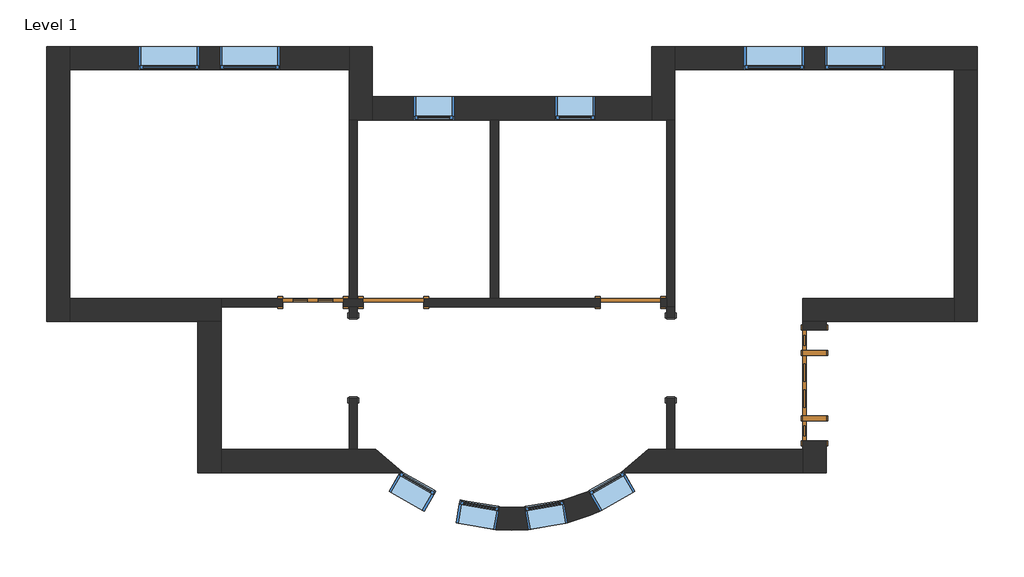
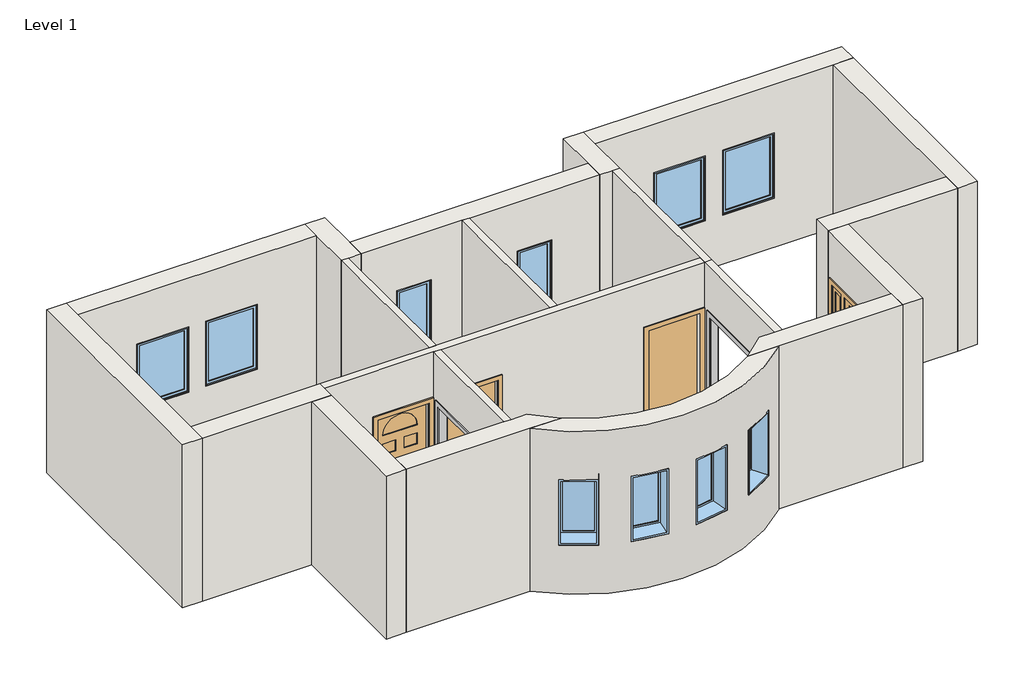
# One storey: 20 walls, 10 windows, 4 doors, 2 proxies.
"""IFC4 building model written with IfcOpenShell, lengths in millimetres."""

from ifc_helpers import new_model, si_unit, frame, origin, origin_with_axes, place, context, project, spatial, polyline, circle_curve, outline, extrude, faceted_brep, transform, mapped, element, save
from ifc_brep_helpers import plane_surface, cylinder_surface, revolved_surface, advanced_brep
from components import proxy_f44482cc, door_2e3b4da2, door_a1797ceb, door_a3eb833a, door_dba5aa2e, window_60baf983, window_ed80354a, window_15c49d37

model = new_model("IFC4")

# Units and contexts
model_context = context("Model", 3, world=origin())
ifc_project = project(units=[si_unit("LENGTHUNIT", "METRE", prefix="MILLI")], contexts=[model_context])

# Site, building, storey
site = spatial("IfcSite", under=ifc_project)
building = spatial("IfcBuilding", under=site)
storey = spatial("IfcBuildingStorey", under=building, Name="Level 1", Elevation=0.0)

# Proxies
placement = place(None, origin())
proxy_shape = proxy_f44482cc(model_context)
element("IfcBuildingElementProxy", 1, Name="Opening-Cased : 48\" x 84\"", ObjectType="Opening-Cased : 48\" x 84\"", at=placement, inside=storey, context=model_context, shape_type="MappedRepresentation", body=[
    mapped(proxy_shape, transform((-732.7404149, 8023.3246014, 0.0), x_axis=(0.0, -1.0, 0.0), y_axis=(1.0, 0.0, 0.0), z_axis=(0.0, 0.0, 1.0))),
])
element("IfcBuildingElementProxy", 2, Name="Opening-Cased : 48\" x 84\"", ObjectType="Opening-Cased : 48\" x 84\"", at=placement, inside=storey, context=model_context, shape_type="MappedRepresentation", body=[
    mapped(proxy_shape, transform((4064.6845851, 8039.7019148, 0.0), x_axis=(0.0, 1.0, 0.0), y_axis=(-1.0, 0.0, 0.0), z_axis=(0.0, 0.0, 1.0))),
])

# Doors
door_shape = door_2e3b4da2(model_context)
element("IfcDoor", 3, ObjectType="Single-Decorative 2 : 36\" x 84\"", at=placement, inside=storey, context=model_context, shape_type="MappedRepresentation", body=[
    mapped(door_shape, transform((-1342.3404149, 8869.7132581, 0.0), x_axis=(1.0, 0.0, 0.0), y_axis=(0.0, 1.0, 0.0), z_axis=(0.0, 0.0, 1.0))),
])
door_2_shape = door_a1797ceb(model_context)
element("IfcDoor", 4, ObjectType="Single-Flush : 36\" x 84\"", at=placement, inside=storey, context=model_context, shape_type="MappedRepresentation", body=[
    mapped(door_2_shape, transform((3455.0845851, 8869.7132581, 0.0), x_axis=(1.0, 0.0, 0.0), y_axis=(0.0, 1.0, 0.0), z_axis=(0.0, 0.0, 1.0))),
])
door_3_shape = door_a3eb833a(model_context)
element("IfcDoor", 5, ObjectType="Single-Flush : 36\" x 84\"", at=placement, inside=storey, context=model_context, shape_type="MappedRepresentation", body=[
    mapped(door_3_shape, transform((-123.1404149, 8869.7132581, 0.0), x_axis=(-1.0, 0.0, 0.0), y_axis=(0.0, -1.0, 0.0), z_axis=(0.0, 0.0, 1.0))),
])
door_4_shape = door_dba5aa2e(model_context)
element("IfcDoor", 6, ObjectType="Single-Raised Panel with Sidelights : 36\" x 84\"", at=placement, inside=storey, context=model_context, shape_type="MappedRepresentation", body=[
    mapped(door_4_shape, transform((6237.9720851, 7614.0007581, 0.0), x_axis=(0.0, -1.0, 0.0), y_axis=(1.0, 0.0, 0.0), z_axis=(0.0, 0.0, 1.0))),
])

# Walls
element("IfcWall", 7, ObjectType="Exterior - Brick on Mtl. Stud", at=placement, inside=storey, context=model_context, shape_type="Brep", body=[
    faceted_brep([(8347.7595851, 12390.7882581, 0.0), (8347.7595851, 8933.2132581, 0.0), (8347.7595851, 8580.7882581, 0.0), (8347.7595851, 8580.7882581, 3048.0), (8347.7595851, 8933.2132581, 3048.0), (8347.7595851, 12390.7882581, 3048.0), (8700.1845851, 12390.7882581, 0.0), (8700.1845851, 12390.7882581, 3048.0), (8700.1845851, 8580.7882581, 3048.0), (8700.1845851, 8580.7882581, 0.0)], [[[0, 1, 2, 3, 4, 5]], [[6, 7, 8, 9]], [[2, 1, 0, 6, 9]], [[5, 4, 3, 8, 7]], [[3, 2, 9, 8]], [[0, 5, 7, 6]]]),
])
element("IfcWall", 8, ObjectType="Exterior - Brick on Mtl. Stud", at=placement, inside=storey, context=model_context, shape_type="Brep", body=[
    faceted_brep([(8347.7595851, 8933.2132581, 0.0), (6061.7595851, 8933.2132581, 0.0), (6061.7595851, 8933.2132581, 3048.0), (8347.7595851, 8933.2132581, 3048.0), (8347.7595851, 8580.7882581, 0.0), (8347.7595851, 8580.7882581, 3048.0), (6414.1845851, 8580.7882581, 3048.0), (6061.7595851, 8580.7882581, 3048.0), (6061.7595851, 8580.7882581, 0.0), (6414.1845851, 8580.7882581, 0.0)], [[[0, 1, 2, 3]], [[4, 5, 6, 7, 8, 9]], [[1, 0, 4, 9, 8]], [[3, 2, 7, 6, 5]], [[2, 1, 8, 7]], [[0, 3, 5, 4]]]),
])
element("IfcWall", 9, ObjectType="Exterior - Brick on Mtl. Stud", at=placement, inside=storey, context=model_context, shape_type="Brep", body=[
    faceted_brep([(6061.7595851, 6775.8007581, 2133.6), (6061.7595851, 6775.8007581, 0.0), (6061.7595851, 6647.2132581, 0.0), (6061.7595851, 6294.7882581, 0.0), (6061.7595851, 6294.7882581, 3048.0), (6061.7595851, 6647.2132581, 3048.0), (6061.7595851, 8580.7882581, 3048.0), (6061.7595851, 8580.7882581, 0.0), (6061.7595851, 8452.2007581, 0.0), (6061.7595851, 8452.2007581, 2133.6), (6414.1845851, 6294.7882581, 0.0), (6414.1845851, 6775.8007581, 0.0), (6414.1845851, 6775.8007581, 2133.6), (6414.1845851, 8452.2007581, 2133.6), (6414.1845851, 8452.2007581, 0.0), (6414.1845851, 8580.7882581, 0.0), (6414.1845851, 8580.7882581, 3048.0), (6414.1845851, 6294.7882581, 3048.0)], [[[0, 1, 2, 3, 4, 5, 6, 7, 8, 9]], [[10, 11, 12, 13, 14, 15, 16, 17]], [[3, 2, 1, 11, 10]], [[8, 7, 15, 14]], [[6, 5, 4, 17, 16]], [[4, 3, 10, 17]], [[7, 6, 16, 15]], [[12, 11, 1, 0]], [[13, 12, 0, 9]], [[14, 13, 9, 8]]]),
])
element("IfcWall", 10, ObjectType="Exterior - Brick on Mtl. Stud", at=placement, inside=storey, context=model_context, shape_type="AdvancedBrep", body=[
    advanced_brep(
    [(6061.7595851, 6647.2132581, 0.0), (4128.1845851, 6647.2132581, 0.0), (4001.1845851, 6647.2132581, 0.0), (3726.3564328, 6647.2132581, 0.0), (3726.3564328, 6647.2132581, 3048.0), (4001.1845851, 6647.2132581, 3048.0), (4128.1845851, 6647.2132581, 3048.0), (6061.7595851, 6647.2132581, 3048.0), (3312.4627349, 6294.7882581, 0.0), (3870.3573191, 6294.7882581, 0.0), (6061.7595851, 6294.7882581, 0.0), (6061.7595851, 6294.7882581, 3048.0), (3870.3573191, 6294.7882581, 3048.0), (3312.4627349, 6294.7882581, 3048.0), (3312.4627349, 6294.7882581, 2133.6), (3361.7509829, 6294.7882581, 2133.6), (3361.7509829, 6294.7882581, 914.4), (3312.4627349, 6294.7882581, 914.4), (3320.3742367, 6300.3443098, 914.4), (3320.3742367, 6300.3443098, 2133.6), (3349.1702511, 6316.8014694, 914.4), (3349.1702511, 6316.8014694, 2133.6)],
    [
        (0, 1),
        (1, 2),
        (2, 3),
        (3, 4),
        (4, 5),
        (5, 6),
        (6, 7),
        (7, 0),
        (8, 9),
        (9, 10),
        (10, 11),
        (11, 12),
        (12, 13),
        (13, 14),
        (14, 15),
        (15, 16),
        (16, 17),
        (17, 8),
        (0, 10),
        (8, 3, circle_curve(frame((1665.9720851, 8647.7081431, 0.0), z_axis=(0.0, 0.0, 1.0), x_axis=(1.0, 0.0, 0.0)), 2871.7875)),
        (4, 13, circle_curve(frame((1665.9720851, 8647.7081431, 3048.0), z_axis=(0.0, 0.0, -1.0), x_axis=(1.0, 0.0, 0.0)), 2871.7875)),
        (11, 7),
        (17, 18, circle_curve(frame((1665.9720851, 8647.7081431, 914.4), z_axis=(0.0, 0.0, 1.0), x_axis=(1.0, 0.0, 0.0)), 2871.7875)),
        (18, 19),
        (19, 14, circle_curve(frame((1665.9720851, 8647.7081431, 2133.6), z_axis=(0.0, 0.0, -1.0), x_axis=(1.0, 0.0, 0.0)), 2871.7875)),
        (20, 21),
        (21, 19),
        (18, 20),
        (16, 20),
        (15, 21),
    ],
    [
        plane_surface(frame((6237.9720851, 6647.2132581, 0.0), z_axis=(0.0, 1.0, 0.0), x_axis=(-1.0, 0.0, 0.0))),
        plane_surface(frame((6237.9720851, 6294.7882581, 0.0), z_axis=(0.0, -1.0, 0.0), x_axis=(1.0, 0.0, 0.0))),
        plane_surface(frame((6237.9720851, 6647.2132581, 0.0), z_axis=(0.0, 0.0, -1.0), x_axis=(0.0, -1.0, 0.0))),
        plane_surface(frame((3799.5720851, 6647.2132581, 3048.0), z_axis=(0.0, 0.0, 1.0), x_axis=(0.0, -1.0, 0.0))),
        revolved_surface(polyline([(4537.7595851, 8647.7081431, 0.0), (4537.7595851, 8647.7081431, 3048.0)]), (1665.9720851, 8647.7081431, 0.0), (0.0, 0.0, -1.0)),
        plane_surface(frame((6061.7595851, 8757.0007581, 0.0), z_axis=(1.0, 0.0, 0.0), x_axis=(0.0, -1.0, 0.0))),
        plane_surface(frame((2819.9073972, 6014.3233852, 2133.6), z_axis=(0.49619108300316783, -0.8682133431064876, 0.0), x_axis=(0.0, 0.0, 1.0))),
        plane_surface(frame((2993.993531, 5709.7151216, 914.4), z_axis=(0.0, 0.0, 1.0000000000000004), x_axis=(-0.4961910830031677, 0.8682133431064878, 0.0))),
        plane_surface(frame((3523.2563849, 6012.1932058, 914.4), z_axis=(-0.8682133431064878, -0.4961910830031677, 0.0), x_axis=(-0.4961910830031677, 0.8682133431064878, 0.0))),
        plane_surface(frame((3523.2563849, 6012.1932058, 2133.6), z_axis=(0.0, 0.0, -1.0000000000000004), x_axis=(-0.4961910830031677, 0.8682133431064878, 0.0))),
    ],
    [
        (0, [[1, 2, 3, 4, 5, 6, 7, 8]]),
        (1, [[9, 10, 11, 12, 13, 14, 15, 16, 17, 18]]),
        (2, [[-3, -2, -1, 19, -10, -9, 20]]),
        (3, [[-7, -6, -5, 21, -13, -12, 22]]),
        (4, [[-4, -20, -18, 23, 24, 25, -14, -21]]),
        (5, [[-8, -22, -11, -19]]),
        (6, [[26, 27, -24, 28]]),
        (7, [[-28, -23, -17, 29]]),
        (8, [[-26, -29, -16, 30]]),
        (9, [[-27, -30, -15, -25]]),
    ],
),
])
element("IfcWall", 11, ObjectType="Exterior - Brick on Mtl. Stud", at=placement, inside=storey, context=model_context, shape_type="Brep", body=[
    faceted_brep([(-5368.2404149, 12743.2132581, 0.0), (-5368.2404149, 8580.7882581, 0.0), (-5368.2404149, 8580.7882581, 3048.0), (-5368.2404149, 12743.2132581, 3048.0), (-5015.8154149, 12743.2132581, 0.0), (-5015.8154149, 12743.2132581, 3048.0), (-5015.8154149, 12390.7882581, 3048.0), (-5015.8154149, 8933.2132581, 3048.0), (-5015.8154149, 8580.7882581, 3048.0), (-5015.8154149, 8580.7882581, 0.0), (-5015.8154149, 8933.2132581, 0.0), (-5015.8154149, 12390.7882581, 0.0)], [[[0, 1, 2, 3]], [[4, 5, 6, 7, 8, 9, 10, 11]], [[1, 0, 4, 11, 10, 9]], [[3, 2, 8, 7, 6, 5]], [[2, 1, 9, 8]], [[0, 3, 5, 4]]]),
])
element("IfcWall", 12, ObjectType="Exterior - Brick on Mtl. Stud", at=placement, inside=storey, context=model_context, shape_type="Brep", body=[
    faceted_brep([(-5015.8154149, 8580.7882581, 0.0), (-3082.2404149, 8580.7882581, 0.0), (-2729.8154149, 8580.7882581, 0.0), (-2729.8154149, 8580.7882581, 3048.0), (-3082.2404149, 8580.7882581, 3048.0), (-5015.8154149, 8580.7882581, 3048.0), (-5015.8154149, 8933.2132581, 0.0), (-5015.8154149, 8933.2132581, 3048.0), (-2729.8154149, 8933.2132581, 3048.0), (-2729.8154149, 8933.2132581, 0.0), (-2729.8154149, 8806.2132581, 0.0), (-2729.8154149, 8806.2132581, 3048.0)], [[[0, 1, 2, 3, 4, 5]], [[6, 7, 8, 9]], [[2, 1, 0, 6, 9, 10]], [[5, 4, 3, 11, 8, 7]], [[3, 2, 10, 9, 8, 11]], [[0, 5, 7, 6]]]),
])
element("IfcWall", 13, ObjectType="Exterior - Brick on Mtl. Stud", at=placement, inside=storey, context=model_context, shape_type="Brep", body=[
    faceted_brep([(-3082.2404149, 8580.7882581, 0.0), (-3082.2404149, 6294.7882581, 0.0), (-3082.2404149, 6294.7882581, 3048.0), (-3082.2404149, 8580.7882581, 3048.0), (-2729.8154149, 8580.7882581, 0.0), (-2729.8154149, 8580.7882581, 3048.0), (-2729.8154149, 6647.2132581, 3048.0), (-2729.8154149, 6294.7882581, 3048.0), (-2729.8154149, 6294.7882581, 0.0), (-2729.8154149, 6647.2132581, 0.0)], [[[0, 1, 2, 3]], [[4, 5, 6, 7, 8, 9]], [[1, 0, 4, 9, 8]], [[3, 2, 7, 6, 5]], [[2, 1, 8, 7]], [[0, 3, 5, 4]]]),
])
element("IfcWall", 14, ObjectType="Exterior - Brick on Mtl. Stud", at=placement, inside=storey, context=model_context, shape_type="AdvancedBrep", body=[
    advanced_brep(
    [(-2729.8154149, 6294.7882581, 0.0), (-538.4131488, 6294.7882581, 0.0), (19.4814354, 6294.7882581, 0.0), (19.4814354, 6294.7882581, 914.4), (-29.8068126, 6294.7882581, 914.4), (-29.8068126, 6294.7882581, 2133.6), (19.4814354, 6294.7882581, 2133.6), (19.4814354, 6294.7882581, 3048.0), (-538.4131488, 6294.7882581, 3048.0), (-2729.8154149, 6294.7882581, 3048.0), (-394.4122625, 6647.2132581, 0.0), (-669.2404149, 6647.2132581, 0.0), (-796.2404149, 6647.2132581, 0.0), (-2729.8154149, 6647.2132581, 0.0), (-2729.8154149, 6647.2132581, 3048.0), (-796.2404149, 6647.2132581, 3048.0), (-669.2404149, 6647.2132581, 3048.0), (-394.4122625, 6647.2132581, 3048.0), (11.5699336, 6300.3443098, 2133.6), (11.5699336, 6300.3443098, 914.4), (-17.2260808, 6316.8014694, 2133.6), (-17.2260808, 6316.8014694, 914.4)],
    [
        (0, 1),
        (1, 2),
        (2, 3),
        (3, 4),
        (4, 5),
        (5, 6),
        (6, 7),
        (7, 8),
        (8, 9),
        (9, 0),
        (10, 11),
        (11, 12),
        (12, 13),
        (13, 14),
        (14, 15),
        (15, 16),
        (16, 17),
        (17, 10),
        (0, 13),
        (10, 2, circle_curve(frame((1665.9720851, 8647.7081431, 0.0), z_axis=(0.0, 0.0, 1.0), x_axis=(1.0, 0.0, 0.0)), 2871.7875)),
        (7, 17, circle_curve(frame((1665.9720851, 8647.7081431, 3048.0), z_axis=(0.0, 0.0, -1.0), x_axis=(1.0, 0.0, 0.0)), 2871.7875)),
        (14, 9),
        (6, 18, circle_curve(frame((1665.9720851, 8647.7081431, 2133.6), z_axis=(0.0, 0.0, -1.0), x_axis=(1.0, 0.0, 0.0)), 2871.7875)),
        (18, 19),
        (19, 3, circle_curve(frame((1665.9720851, 8647.7081431, 914.4), z_axis=(0.0, 0.0, 1.0), x_axis=(1.0, 0.0, 0.0)), 2871.7875)),
        (20, 21),
        (21, 19),
        (18, 20),
        (21, 4),
        (20, 5),
    ],
    [
        plane_surface(frame((-2906.0279149, 6294.7882581, 0.0), z_axis=(0.0, -1.0, 0.0), x_axis=(1.0, 0.0, 0.0))),
        plane_surface(frame((-2906.0279149, 6647.2132581, 0.0), z_axis=(0.0, 1.0, 0.0), x_axis=(-1.0, 0.0, 0.0))),
        plane_surface(frame((-2906.0279149, 6294.7882581, 0.0), z_axis=(0.0, 0.0, -1.0), x_axis=(0.0, 1.0, 0.0))),
        plane_surface(frame((-467.6279149, 6294.7882581, 3048.0), z_axis=(0.0, 0.0, 1.0), x_axis=(0.0, 1.0, 0.0))),
        revolved_surface(polyline([(4537.7595851, 8647.7081431, 0.0), (4537.7595851, 8647.7081431, 3048.0)]), (1665.9720851, 8647.7081431, 0.0), (0.0, 0.0, -1.0)),
        plane_surface(frame((-2729.8154149, 8757.0007581, 0.0), z_axis=(-1.0, 0.0, 0.0), x_axis=(0.0, 1.0, 0.0))),
        plane_surface(frame((512.0367731, 6014.3233852, 2133.6), z_axis=(-0.4961910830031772, -0.8682133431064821, 0.0), x_axis=(0.0, 0.0, -1.0))),
        plane_surface(frame((512.0367731, 6014.3233852, 914.4), z_axis=(0.0, 0.0, 1.0000000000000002), x_axis=(-0.49619108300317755, -0.8682133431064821, 0.0))),
        plane_surface(frame((-17.2260808, 6316.8014694, 914.4), z_axis=(0.8682133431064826, -0.4961910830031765, 0.0), x_axis=(-0.4961910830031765, -0.8682133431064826, 0.0))),
        plane_surface(frame((-17.2260808, 6316.8014694, 2133.6), z_axis=(0.0, 0.0, -1.0), x_axis=(-0.4961910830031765, -0.8682133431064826, 0.0))),
    ],
    [
        (0, [[1, 2, 3, 4, 5, 6, 7, 8, 9, 10]]),
        (1, [[11, 12, 13, 14, 15, 16, 17, 18]]),
        (2, [[-2, -1, 19, -13, -12, -11, 20]]),
        (3, [[-9, -8, 21, -17, -16, -15, 22]]),
        (4, [[-20, -18, -21, -7, 23, 24, 25, -3]]),
        (5, [[-10, -22, -14, -19]]),
        (6, [[26, 27, -24, 28]]),
        (7, [[-27, 29, -4, -25]]),
        (8, [[-26, 30, -5, -29]]),
        (9, [[-28, -23, -6, -30]]),
    ],
),
])
element("IfcWall", 15, ObjectType="Exterior - Brick on Mtl. Stud", at=placement, inside=storey, context=model_context, shape_type="SweptSolid", body=[
    extrude(outline(polyline([(0.0, -5015.8154149), (0.0, -796.2404149), (3048.0, -796.2404149), (3048.0, -5015.8154149), (0.0, -5015.8154149)]), holes=[polyline([(2133.6, -3972.8279149), (2133.6, -3058.4279149), (914.4, -3058.4279149), (914.4, -3972.8279149), (2133.6, -3972.8279149)]), polyline([(2133.6, -2753.6279149), (2133.6, -1839.2279149), (914.4, -1839.2279149), (914.4, -2753.6279149), (2133.6, -2753.6279149)])]), frame((0.0, 12390.7882581, 0.0), z_axis=(0.0, 1.0, 0.0), x_axis=(0.0, 0.0, 1.0)), (0.0, 0.0, 1.0), 352.425),
])
element("IfcWall", 16, ObjectType="Exterior - Brick on Mtl. Stud", at=placement, inside=storey, context=model_context, shape_type="Brep", body=[
    faceted_brep([(-796.2404149, 12743.2132581, 0.0), (-796.2404149, 12390.7882581, 0.0), (-796.2404149, 11628.7882581, 0.0), (-796.2404149, 11628.7882581, 3048.0), (-796.2404149, 12390.7882581, 3048.0), (-796.2404149, 12743.2132581, 3048.0), (-443.8154149, 12743.2132581, 0.0), (-443.8154149, 12743.2132581, 3048.0), (-443.8154149, 11981.2132581, 3048.0), (-443.8154149, 11628.7882581, 3048.0), (-443.8154149, 11628.7882581, 0.0), (-443.8154149, 11981.2132581, 0.0), (-669.2404149, 11628.7882581, 0.0), (-669.2404149, 11628.7882581, 3048.0)], [[[0, 1, 2, 3, 4, 5]], [[6, 7, 8, 9, 10, 11]], [[2, 1, 0, 6, 11, 10, 12]], [[5, 4, 3, 13, 9, 8, 7]], [[0, 5, 7, 6]], [[3, 2, 12, 10, 9, 13]]]),
])
element("IfcWall", 17, ObjectType="Exterior - Brick on Mtl. Stud", at=placement, inside=storey, context=model_context, shape_type="Brep", body=[
    faceted_brep([(-443.8154149, 11628.7882581, 0.0), (1337.3595851, 11628.7882581, 0.0), (1464.3595851, 11628.7882581, 0.0), (3775.7595851, 11628.7882581, 0.0), (3775.7595851, 11628.7882581, 3048.0), (1464.3595851, 11628.7882581, 3048.0), (1337.3595851, 11628.7882581, 3048.0), (-443.8154149, 11628.7882581, 3048.0), (2315.2595851, 11628.7882581, 2133.6), (2924.8595851, 11628.7882581, 2133.6), (2924.8595851, 11628.7882581, 914.4), (2315.2595851, 11628.7882581, 914.4), (181.6595851, 11628.7882581, 2133.6), (791.2595851, 11628.7882581, 2133.6), (791.2595851, 11628.7882581, 914.4), (181.6595851, 11628.7882581, 914.4), (-443.8154149, 11981.2132581, 0.0), (-443.8154149, 11981.2132581, 3048.0), (3775.7595851, 11981.2132581, 3048.0), (3775.7595851, 11981.2132581, 0.0), (2315.2595851, 11981.2132581, 2133.6), (2315.2595851, 11981.2132581, 914.4), (2924.8595851, 11981.2132581, 914.4), (2924.8595851, 11981.2132581, 2133.6), (181.6595851, 11981.2132581, 2133.6), (181.6595851, 11981.2132581, 914.4), (791.2595851, 11981.2132581, 914.4), (791.2595851, 11981.2132581, 2133.6)], [[[0, 1, 2, 3, 4, 5, 6, 7], [8, 9, 10, 11], [12, 13, 14, 15]], [[16, 17, 18, 19], [20, 21, 22, 23], [24, 25, 26, 27]], [[3, 2, 1, 0, 16, 19]], [[7, 6, 5, 4, 18, 17]], [[0, 7, 17, 16]], [[4, 3, 19, 18]], [[21, 20, 8, 11]], [[22, 21, 11, 10]], [[23, 22, 10, 9]], [[20, 23, 9, 8]], [[25, 24, 12, 15]], [[26, 25, 15, 14]], [[27, 26, 14, 13]], [[24, 27, 13, 12]]]),
])
element("IfcWall", 18, ObjectType="Exterior - Brick on Mtl. Stud", at=placement, inside=storey, context=model_context, shape_type="Brep", body=[
    faceted_brep([(4128.1845851, 11628.7882581, 0.0), (4128.1845851, 12390.7882581, 0.0), (4128.1845851, 12743.2132581, 0.0), (4128.1845851, 12743.2132581, 3048.0), (4128.1845851, 12390.7882581, 3048.0), (4128.1845851, 11628.7882581, 3048.0), (3775.7595851, 11628.7882581, 0.0), (3775.7595851, 11628.7882581, 3048.0), (3775.7595851, 11981.2132581, 3048.0), (3775.7595851, 12743.2132581, 3048.0), (3775.7595851, 12743.2132581, 0.0), (3775.7595851, 11981.2132581, 0.0), (4001.1845851, 11628.7882581, 0.0), (4001.1845851, 11628.7882581, 3048.0)], [[[0, 1, 2, 3, 4, 5]], [[6, 7, 8, 9, 10, 11]], [[2, 1, 0, 12, 6, 11, 10]], [[5, 4, 3, 9, 8, 7, 13]], [[0, 5, 13, 7, 6, 12]], [[3, 2, 10, 9]]]),
])
element("IfcWall", 19, ObjectType="Exterior - Brick on Mtl. Stud", at=placement, inside=storey, context=model_context, shape_type="Brep", body=[
    faceted_brep([(4128.1845851, 12390.7882581, 0.0), (8347.7595851, 12390.7882581, 0.0), (8700.1845851, 12390.7882581, 0.0), (8700.1845851, 12390.7882581, 3048.0), (8347.7595851, 12390.7882581, 3048.0), (4128.1845851, 12390.7882581, 3048.0), (6390.3720851, 12390.7882581, 2133.6), (7304.7720851, 12390.7882581, 2133.6), (7304.7720851, 12390.7882581, 914.4), (6390.3720851, 12390.7882581, 914.4), (5171.1720851, 12390.7882581, 2133.6), (6085.5720851, 12390.7882581, 2133.6), (6085.5720851, 12390.7882581, 914.4), (5171.1720851, 12390.7882581, 914.4), (4128.1845851, 12743.2132581, 0.0), (4128.1845851, 12743.2132581, 3048.0), (8700.1845851, 12743.2132581, 3048.0), (8700.1845851, 12743.2132581, 0.0), (6390.3720851, 12743.2132581, 2133.6), (6390.3720851, 12743.2132581, 914.4), (7304.7720851, 12743.2132581, 914.4), (7304.7720851, 12743.2132581, 2133.6), (5171.1720851, 12743.2132581, 2133.6), (5171.1720851, 12743.2132581, 914.4), (6085.5720851, 12743.2132581, 914.4), (6085.5720851, 12743.2132581, 2133.6)], [[[0, 1, 2, 3, 4, 5], [6, 7, 8, 9], [10, 11, 12, 13]], [[14, 15, 16, 17], [18, 19, 20, 21], [22, 23, 24, 25]], [[2, 1, 0, 14, 17]], [[5, 4, 3, 16, 15]], [[3, 2, 17, 16]], [[0, 5, 15, 14]], [[19, 18, 6, 9]], [[20, 19, 9, 8]], [[21, 20, 8, 7]], [[18, 21, 7, 6]], [[23, 22, 10, 13]], [[24, 23, 13, 12]], [[25, 24, 12, 11]], [[22, 25, 11, 10]]]),
])
element("IfcWall", 20, ObjectType="Exterior - Brick on Mtl. Stud", at=placement, inside=storey, context=model_context, shape_type="AdvancedBrep", body=[
    advanced_brep(
    [(3312.4627349, 6294.7882581, 3048.0), (19.4814354, 6294.7882581, 3048.0), (-538.4131488, 6294.7882581, 3048.0), (3870.3573191, 6294.7882581, 3048.0), (19.4814354, 6294.7882581, 0.0), (3312.4627349, 6294.7882581, 0.0), (3870.3573191, 6294.7882581, 0.0), (-538.4131488, 6294.7882581, 0.0), (3312.4627349, 6294.7882581, 2133.6), (2818.2473245, 6017.2281075, 2133.6), (2818.2473245, 6017.2281075, 914.4), (3312.4627349, 6294.7882581, 914.4), (19.4814354, 6294.7882581, 914.4), (513.6968458, 6017.2281075, 914.4), (513.6968458, 6017.2281075, 2133.6), (19.4814354, 6294.7882581, 2133.6), (1481.667639, 5781.8408545, 914.4), (1481.667639, 5781.8408545, 2133.6), (880.9128086, 5885.3096604, 2133.6), (880.9128086, 5885.3096604, 914.4), (1850.2765313, 5781.8408545, 2133.6), (1850.2765313, 5781.8408545, 914.4), (2451.0313617, 5885.3096604, 914.4), (2451.0313617, 5885.3096604, 2133.6), (337.9427329, 5709.7012873, 2133.6), (337.9427329, 5709.7012873, 914.4), (-191.320121, 6012.1793715, 914.4), (-191.320121, 6012.1793715, 2133.6), (1421.5473554, 5432.7738053, 2133.6), (1421.5473554, 5432.7738053, 914.4), (820.792525, 5536.2426112, 914.4), (820.792525, 5536.2426112, 2133.6), (2994.0014374, 5709.7012873, 914.4), (2994.0014374, 5709.7012873, 2133.6), (3523.2642913, 6012.1793715, 2133.6), (3523.2642913, 6012.1793715, 914.4), (1910.3968149, 5432.7738053, 2133.6), (2511.1516453, 5536.2426112, 2133.6), (2511.1516453, 5536.2426112, 914.4), (1910.3968149, 5432.7738053, 914.4), (3361.7509829, 6294.7882581, 914.4), (3361.7509829, 6294.7882581, 2133.6), (-29.8068126, 6294.7882581, 2133.6), (-29.8068126, 6294.7882581, 914.4)],
    [
        (0, 1, circle_curve(frame((1665.9720851, 8647.7081431, 3048.0), z_axis=(0.0, 0.0, -1.0), x_axis=(1.0, 0.0, 0.0)), 2871.7875)),
        (1, 2),
        (2, 3, circle_curve(frame((1665.9720851, 8647.7081431, 3048.0), z_axis=(0.0, 0.0, 1.0), x_axis=(1.0, 0.0, 0.0)), 3224.2125)),
        (3, 0),
        (4, 5, circle_curve(frame((1665.9720851, 8647.7081431, 0.0), z_axis=(0.0, 0.0, 1.0), x_axis=(1.0, 0.0, 0.0)), 2871.7875)),
        (5, 6),
        (6, 7, circle_curve(frame((1665.9720851, 8647.7081431, 0.0), z_axis=(0.0, 0.0, -1.0), x_axis=(1.0, 0.0, 0.0)), 3224.2125)),
        (7, 4),
        (0, 8),
        (8, 9, circle_curve(frame((1665.9720851, 8647.7081431, 2133.6), z_axis=(0.0, 0.0, -1.0), x_axis=(1.0, 0.0, 0.0)), 2871.7875)),
        (9, 10),
        (10, 11, circle_curve(frame((1665.9720851, 8647.7081431, 914.4), z_axis=(0.0, 0.0, 1.0), x_axis=(1.0, 0.0, 0.0)), 2871.7875)),
        (11, 5),
        (4, 12),
        (12, 13, circle_curve(frame((1665.9720851, 8647.7081431, 914.4), z_axis=(0.0, 0.0, 1.0), x_axis=(1.0, 0.0, 0.0)), 2871.7875)),
        (13, 14),
        (14, 15, circle_curve(frame((1665.9720851, 8647.7081431, 2133.6), z_axis=(0.0, 0.0, -1.0), x_axis=(1.0, 0.0, 0.0)), 2871.7875)),
        (15, 1),
        (16, 17),
        (17, 18, circle_curve(frame((1665.9720851, 8647.7081431, 2133.6), z_axis=(0.0, 0.0, -1.0), x_axis=(1.0, 0.0, 0.0)), 2871.7875)),
        (18, 19),
        (19, 16, circle_curve(frame((1665.9720851, 8647.7081431, 914.4), z_axis=(0.0, 0.0, 1.0), x_axis=(1.0, 0.0, 0.0)), 2871.7875)),
        (20, 21),
        (21, 22, circle_curve(frame((1665.9720851, 8647.7081431, 914.4), z_axis=(0.0, 0.0, 1.0), x_axis=(1.0, 0.0, 0.0)), 2871.7875)),
        (22, 23),
        (23, 20, circle_curve(frame((1665.9720851, 8647.7081431, 2133.6), z_axis=(0.0, 0.0, -1.0), x_axis=(1.0, 0.0, 0.0)), 2871.7875)),
        (2, 7),
        (6, 3),
        (24, 25),
        (25, 26, circle_curve(frame((1665.9720851, 8647.7081431, 914.4), z_axis=(0.0, 0.0, -1.0), x_axis=(1.0, 0.0, 0.0)), 3224.2125)),
        (26, 27),
        (27, 24, circle_curve(frame((1665.9720851, 8647.7081431, 2133.6), z_axis=(0.0, 0.0, 1.0), x_axis=(1.0, 0.0, 0.0)), 3224.2125)),
        (28, 29),
        (29, 30, circle_curve(frame((1665.9720851, 8647.7081431, 914.4), z_axis=(0.0, 0.0, -1.0), x_axis=(1.0, 0.0, 0.0)), 3224.2125)),
        (30, 31),
        (31, 28, circle_curve(frame((1665.9720851, 8647.7081431, 2133.6), z_axis=(0.0, 0.0, 1.0), x_axis=(1.0, 0.0, 0.0)), 3224.2125)),
        (32, 33),
        (33, 34, circle_curve(frame((1665.9720851, 8647.7081431, 2133.6), z_axis=(0.0, 0.0, 1.0), x_axis=(1.0, 0.0, 0.0)), 3224.2125)),
        (34, 35),
        (35, 32, circle_curve(frame((1665.9720851, 8647.7081431, 914.4), z_axis=(0.0, 0.0, -1.0), x_axis=(1.0, 0.0, 0.0)), 3224.2125)),
        (36, 37, circle_curve(frame((1665.9720851, 8647.7081431, 2133.6), z_axis=(0.0, 0.0, 1.0), x_axis=(1.0, 0.0, 0.0)), 3224.2125)),
        (37, 38),
        (38, 39, circle_curve(frame((1665.9720851, 8647.7081431, 914.4), z_axis=(0.0, 0.0, -1.0), x_axis=(1.0, 0.0, 0.0)), 3224.2125)),
        (39, 36),
        (11, 40),
        (40, 41),
        (41, 8),
        (15, 42),
        (42, 43),
        (43, 12),
        (24, 14),
        (13, 25),
        (43, 26),
        (42, 27),
        (28, 17),
        (16, 29),
        (19, 30),
        (18, 31),
        (9, 33),
        (32, 10),
        (35, 40),
        (34, 41),
        (20, 36),
        (39, 21),
        (38, 22),
        (37, 23),
    ],
    [
        plane_surface(frame((4537.7595851, 8647.7081431, 3048.0), z_axis=(0.0, 0.0, 1.0), x_axis=(0.0, -1.0, 0.0))),
        plane_surface(frame((4537.7595851, 8647.7081431, 0.0), z_axis=(0.0, 0.0, -1.0), x_axis=(0.0, 1.0, 0.0))),
        revolved_surface(polyline([(4537.7595851, 8647.7081431, 0.0), (4537.7595851, 8647.7081431, 3048.0)]), (1665.9720851, 8647.7081431, 0.0), (0.0, 0.0, -1.0)),
        cylinder_surface(frame((1665.9720851, 8647.7081431, 0.0), z_axis=(0.0, 0.0, 1.0), x_axis=(1.0, 0.0, 0.0)), 3224.2125),
        plane_surface(frame((6237.9720851, 6294.7882581, 0.0), z_axis=(0.0, 1.0, 0.0), x_axis=(1.0, 0.0, 0.0))),
        plane_surface(frame((-2906.0279149, 6294.7882581, 0.0), z_axis=(0.0, 1.0, 0.0), x_axis=(1.0, 0.0, 0.0))),
        plane_surface(frame((1095.0219139, 7034.4051549, 2133.6), z_axis=(-0.8682133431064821, 0.49619108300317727, 0.0), x_axis=(-0.49619108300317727, -0.8682133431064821, 0.0))),
        plane_surface(frame((1095.0219139, 7034.4051549, 914.4), z_axis=(0.0, 0.0, 1.0), x_axis=(-0.4961910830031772, -0.8682133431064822, 0.0))),
        plane_surface(frame((565.7590599, 7336.8832391, 914.4), z_axis=(0.8682133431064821, -0.4961910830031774, 0.0), x_axis=(-0.4961910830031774, -0.8682133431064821, 0.0))),
        plane_surface(frame((565.7590599, 7336.8832391, 2133.6), z_axis=(0.0, 0.0, -1.0), x_axis=(-0.4961910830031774, -0.8682133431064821, 0.0))),
        plane_surface(frame((1421.5473554, 5432.7738053, 2133.6), z_axis=(-0.9854902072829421, 0.16973229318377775, 0.0), x_axis=(0.16973229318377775, 0.9854902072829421, 0.0))),
        plane_surface(frame((1421.5473554, 5432.7738053, 914.4), z_axis=(0.0, 0.0, 1.0), x_axis=(0.16973229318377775, 0.9854902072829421, 0.0))),
        plane_surface(frame((820.792525, 5536.2426112, 914.4), z_axis=(0.9854902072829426, -0.16973229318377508, 0.0), x_axis=(0.16973229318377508, 0.9854902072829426, 0.0))),
        plane_surface(frame((820.792525, 5536.2426112, 2133.6), z_axis=(0.0, 0.0, -1.0), x_axis=(0.16973229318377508, 0.9854902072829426, 0.0))),
        plane_surface(frame((3749.3126774, 4388.0908851, 2133.6), z_axis=(0.8682133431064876, 0.4961910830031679, 0.0), x_axis=(-0.4961910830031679, 0.8682133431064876, 0.0))),
        plane_surface(frame((3749.3126774, 4388.0908851, 914.4), z_axis=(0.0, 0.0, 1.0000000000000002), x_axis=(-0.4961910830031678, 0.8682133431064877, 0.0))),
        plane_surface(frame((4278.5755314, 4690.5689693, 914.4), z_axis=(-0.8682133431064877, -0.4961910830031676, 0.0), x_axis=(-0.4961910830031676, 0.8682133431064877, 0.0))),
        plane_surface(frame((4278.5755314, 4690.5689693, 2133.6), z_axis=(0.0, 0.0, -1.0), x_axis=(-0.4961910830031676, 0.8682133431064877, 0.0))),
        plane_surface(frame((1850.2765313, 5781.8408545, 2133.6), z_axis=(0.9854902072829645, 0.1697322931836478, 0.0), x_axis=(0.1697322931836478, -0.9854902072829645, 0.0))),
        plane_surface(frame((1850.2765313, 5781.8408545, 914.4), z_axis=(0.0, 0.0, 1.0000000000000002), x_axis=(0.1697322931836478, -0.9854902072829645, 0.0))),
        plane_surface(frame((2451.0313617, 5885.3096604, 914.4), z_axis=(-0.9854902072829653, -0.16973229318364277, 0.0), x_axis=(0.16973229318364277, -0.9854902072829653, 0.0))),
        plane_surface(frame((2451.0313617, 5885.3096604, 2133.6), z_axis=(0.0, 0.0, -1.0), x_axis=(0.16973229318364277, -0.9854902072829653, 0.0))),
    ],
    [
        (0, [[1, 2, 3, 4]]),
        (1, [[5, 6, 7, 8]]),
        (2, [[-1, 9, 10, 11, 12, 13, -5, 14, 15, 16, 17, 18], [19, 20, 21, 22], [23, 24, 25, 26]]),
        (3, [[-3, 27, -7, 28], [29, 30, 31, 32], [33, 34, 35, 36], [37, 38, 39, 40], [41, 42, 43, 44]]),
        (4, [[-4, -28, -6, -13, 45, 46, 47, -9]]),
        (5, [[-2, -18, 48, 49, 50, -14, -8, -27]]),
        (6, [[51, -16, 52, -29]]),
        (7, [[-52, -15, -50, 53, -30]]),
        (8, [[-53, -49, 54, -31]]),
        (9, [[-51, -32, -54, -48, -17]]),
        (10, [[-33, 55, -19, 56]]),
        (11, [[-34, -56, -22, 57]]),
        (12, [[-35, -57, -21, 58]]),
        (13, [[-36, -58, -20, -55]]),
        (14, [[59, -37, 60, -11]]),
        (15, [[-60, -40, 61, -45, -12]]),
        (16, [[-61, -39, 62, -46]]),
        (17, [[-59, -10, -47, -62, -38]]),
        (18, [[-23, 63, -44, 64]]),
        (19, [[-24, -64, -43, 65]]),
        (20, [[-25, -65, -42, 66]]),
        (21, [[-26, -66, -41, -63]]),
    ],
),
])
element("IfcWall", 21, ObjectType="Interior - 5\" Partition (2-hr)", at=placement, inside=storey, context=model_context, shape_type="Brep", body=[
    faceted_brep([(4001.1845851, 11628.7882581, 0.0), (4001.1845851, 8933.2132581, 0.0), (4001.1845851, 8806.2132581, 0.0), (4001.1845851, 8806.2132581, 3048.0), (4001.1845851, 8933.2132581, 3048.0), (4001.1845851, 11628.7882581, 3048.0), (4128.1845851, 11628.7882581, 0.0), (4128.1845851, 11628.7882581, 3048.0), (4128.1845851, 8806.2132581, 3048.0), (4128.1845851, 8806.2132581, 0.0)], [[[0, 1, 2, 3, 4, 5]], [[6, 7, 8, 9]], [[2, 1, 0, 6, 9]], [[5, 4, 3, 8, 7]], [[3, 2, 9, 8]], [[0, 5, 7, 6]]]),
])
element("IfcWall", 22, ObjectType="Interior - 5\" Partition (2-hr)", at=placement, inside=storey, context=model_context, shape_type="Brep", body=[
    faceted_brep([(-885.1404149, 8806.2132581, 2133.6), (-885.1404149, 8806.2132581, 0.0), (-796.2404149, 8806.2132581, 0.0), (-669.2404149, 8806.2132581, 0.0), (-580.3404149, 8806.2132581, 0.0), (-580.3404149, 8806.2132581, 2133.6), (334.0595851, 8806.2132581, 2133.6), (334.0595851, 8806.2132581, 0.0), (2997.8845851, 8806.2132581, 0.0), (2997.8845851, 8806.2132581, 2133.6), (3912.2845851, 8806.2132581, 2133.6), (3912.2845851, 8806.2132581, 0.0), (4001.1845851, 8806.2132581, 0.0), (4001.1845851, 8806.2132581, 3048.0), (-669.2404149, 8806.2132581, 3048.0), (-796.2404149, 8806.2132581, 3048.0), (-2729.8154149, 8806.2132581, 3048.0), (-2729.8154149, 8806.2132581, 0.0), (-1799.5404149, 8806.2132581, 0.0), (-1799.5404149, 8806.2132581, 2133.6), (-580.3404149, 8933.2132581, 0.0), (-669.2404149, 8933.2132581, 0.0), (-796.2404149, 8933.2132581, 0.0), (-885.1404149, 8933.2132581, 0.0), (-885.1404149, 8933.2132581, 2133.6), (-1799.5404149, 8933.2132581, 2133.6), (-1799.5404149, 8933.2132581, 0.0), (-2729.8154149, 8933.2132581, 0.0), (-2729.8154149, 8933.2132581, 3048.0), (-796.2404149, 8933.2132581, 3048.0), (-669.2404149, 8933.2132581, 3048.0), (1337.3595851, 8933.2132581, 3048.0), (1464.3595851, 8933.2132581, 3048.0), (4001.1845851, 8933.2132581, 3048.0), (4001.1845851, 8933.2132581, 0.0), (3912.2845851, 8933.2132581, 0.0), (3912.2845851, 8933.2132581, 2133.6), (2997.8845851, 8933.2132581, 2133.6), (2997.8845851, 8933.2132581, 0.0), (1464.3595851, 8933.2132581, 0.0), (1337.3595851, 8933.2132581, 0.0), (334.0595851, 8933.2132581, 0.0), (334.0595851, 8933.2132581, 2133.6), (-580.3404149, 8933.2132581, 2133.6)], [[[0, 1, 2, 3, 4, 5, 6, 7, 8, 9, 10, 11, 12, 13, 14, 15, 16, 17, 18, 19]], [[20, 21, 22, 23, 24, 25, 26, 27, 28, 29, 30, 31, 32, 33, 34, 35, 36, 37, 38, 39, 40, 41, 42, 43]], [[12, 11, 35, 34]], [[4, 3, 2, 1, 23, 22, 21, 20]], [[41, 40, 39, 38, 8, 7]], [[18, 17, 27, 26]], [[16, 15, 14, 13, 33, 32, 31, 30, 29, 28]], [[17, 16, 28, 27]], [[13, 12, 34, 33]], [[36, 35, 11, 10]], [[37, 36, 10, 9]], [[38, 37, 9, 8]], [[5, 4, 20, 43]], [[6, 5, 43, 42]], [[7, 6, 42, 41]], [[24, 23, 1, 0]], [[25, 24, 0, 19]], [[26, 25, 19, 18]]]),
])
element("IfcWall", 23, ObjectType="Interior - 5\" Partition (2-hr)", at=placement, inside=storey, context=model_context, shape_type="SweptSolid", body=[
    extrude(outline(polyline([(-796.2404149, 8933.2132581), (-796.2404149, 11628.7882581), (-669.2404149, 11628.7882581), (-669.2404149, 8933.2132581), (-796.2404149, 8933.2132581)])), origin_with_axes(), (0.0, 0.0, 1.0), 3048.0),
])
element("IfcWall", 24, ObjectType="Interior - 5\" Partition (2-hr)", at=placement, inside=storey, context=model_context, shape_type="SweptSolid", body=[
    extrude(outline(polyline([(1464.3595851, 11628.7882581), (1464.3595851, 8933.2132581), (1337.3595851, 8933.2132581), (1337.3595851, 11628.7882581), (1464.3595851, 11628.7882581)])), origin_with_axes(), (0.0, 0.0, 1.0), 3048.0),
])
element("IfcWall", 25, ObjectType="Interior - 5\" Partition (2-hr)", at=placement, inside=storey, context=model_context, shape_type="SweptSolid", body=[
    extrude(outline(polyline([(7421.9132581, 2133.6), (7421.9132581, 0.0), (6647.2132581, 0.0), (6647.2132581, 3048.0), (8806.2132581, 3048.0), (8806.2132581, 0.0), (8641.1132581, 0.0), (8641.1132581, 2133.6), (7421.9132581, 2133.6)])), frame((-796.2404149, 0.0, 0.0), z_axis=(1.0, 0.0, 0.0), x_axis=(0.0, 1.0, 0.0)), (0.0, 0.0, 1.0), 127.0),
])
element("IfcWall", 26, ObjectType="Interior - 5\" Partition (2-hr)", at=placement, inside=storey, context=model_context, shape_type="SweptSolid", body=[
    extrude(outline(polyline([(8806.2132581, 0.0), (8641.1132581, 0.0), (8641.1132581, 2133.6), (7421.9132581, 2133.6), (7421.9132581, 0.0), (6647.2132581, 0.0), (6647.2132581, 3048.0), (8806.2132581, 3048.0), (8806.2132581, 0.0)])), frame((4001.1845851, 0.0, 0.0), z_axis=(1.0, 0.0, 0.0), x_axis=(0.0, 1.0, 0.0)), (0.0, 0.0, 1.0), 127.0),
])

# Windows
window_shape = window_60baf983(model_context)
element("IfcWindow", 27, ObjectType="Fixed : 24\" x 48\"", at=placement, inside=storey, context=model_context, shape_type="MappedRepresentation", body=[
    mapped(window_shape, transform((2581.9595851, 11805.0007581, 0.0), x_axis=(-0.9999999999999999, 0.0, 0.0), y_axis=(0.0, -0.9999999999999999, 0.0), z_axis=(0.0, 0.0, 1.0))),
])
element("IfcWindow", 28, ObjectType="Fixed : 24\" x 48\"", at=placement, inside=storey, context=model_context, shape_type="MappedRepresentation", body=[
    mapped(window_shape, transform((448.3595851, 11805.0007581, 0.0), x_axis=(-0.9999999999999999, 0.0, 0.0), y_axis=(0.0, -0.9999999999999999, 0.0), z_axis=(0.0, 0.0, 1.0))),
])
element("IfcWindow", 29, ObjectType="Fixed : 24\" x 48\"", at=placement, inside=storey, context=model_context, shape_type="MappedRepresentation", body=[
    mapped(window_shape, transform((194.709276, 5996.5722256, 0.0), x_axis=(0.8682133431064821, -0.4961910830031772, 0.0), y_axis=(0.4961910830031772, 0.8682133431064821, 0.0), z_axis=(0.0, 0.0, 1.0))),
])
element("IfcWindow", 30, ObjectType="Fixed : 24\" x 48\"", at=placement, inside=storey, context=model_context, shape_type="MappedRepresentation", body=[
    mapped(window_shape, transform((1188.928449, 5653.4527639, 0.0), x_axis=(0.9854902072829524, -0.16973229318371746, 0.0), y_axis=(0.16973229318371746, 0.9854902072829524, 0.0), z_axis=(0.0, 0.0, 1.0))),
])
window_2_shape = window_ed80354a(model_context)
element("IfcWindow", 31, ObjectType="Fixed : 24\" x 48\"", at=placement, inside=storey, context=model_context, shape_type="MappedRepresentation", body=[
    mapped(window_2_shape, transform((3137.2348943, 5996.5722256, 0.0), x_axis=(-0.8682133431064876, -0.49619108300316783, 0.0), y_axis=(0.49619108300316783, -0.8682133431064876, 0.0), z_axis=(0.0, 0.0, 1.0))),
])
element("IfcWindow", 32, ObjectType="Fixed : 24\" x 48\"", at=placement, inside=storey, context=model_context, shape_type="MappedRepresentation", body=[
    mapped(window_2_shape, transform((2143.0157213, 5653.4527639, 0.0), x_axis=(-0.9854902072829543, -0.1697322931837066, 0.0), y_axis=(0.1697322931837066, -0.9854902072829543, 0.0), z_axis=(0.0, 0.0, 1.0))),
])
window_3_shape = window_15c49d37(model_context)
element("IfcWindow", 33, ObjectType="Fixed : 36\" x 48\"", at=placement, inside=storey, context=model_context, shape_type="MappedRepresentation", body=[
    mapped(window_3_shape, transform((-3553.7279149, 12567.0007581, 0.0), x_axis=(-1.0, 0.0, 0.0), y_axis=(0.0, -1.0, 0.0), z_axis=(0.0, 0.0, 1.0))),
])
element("IfcWindow", 34, ObjectType="Fixed : 36\" x 48\"", at=placement, inside=storey, context=model_context, shape_type="MappedRepresentation", body=[
    mapped(window_3_shape, transform((-2334.5279149, 12567.0007581, 0.0), x_axis=(-1.0, 0.0, 0.0), y_axis=(0.0, -1.0, 0.0), z_axis=(0.0, 0.0, 1.0))),
])
element("IfcWindow", 35, ObjectType="Fixed : 36\" x 48\"", at=placement, inside=storey, context=model_context, shape_type="MappedRepresentation", body=[
    mapped(window_3_shape, transform((6809.4720851, 12567.0007581, 0.0), x_axis=(-1.0, 0.0, 0.0), y_axis=(0.0, -1.0, 0.0), z_axis=(0.0, 0.0, 1.0))),
])
element("IfcWindow", 36, ObjectType="Fixed : 36\" x 48\"", at=placement, inside=storey, context=model_context, shape_type="MappedRepresentation", body=[
    mapped(window_3_shape, transform((5590.2720851, 12567.0007581, 0.0), x_axis=(-1.0, 0.0, 0.0), y_axis=(0.0, -1.0, 0.0), z_axis=(0.0, 0.0, 1.0))),
])

save(model, "model.ifc")
